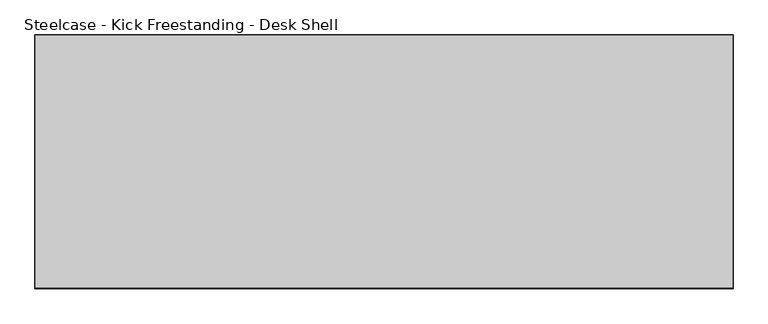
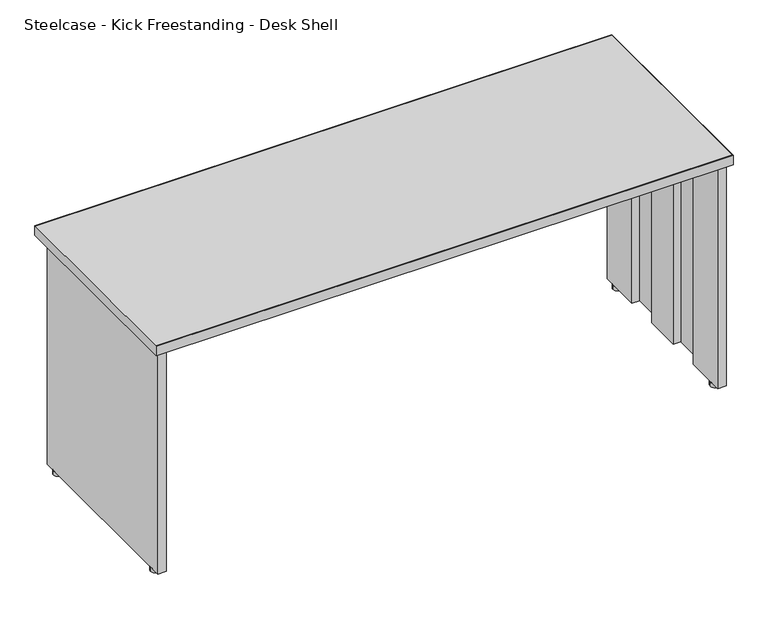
"""IFC4 building model written with IfcOpenShell, lengths in millimetres: furniture geometry, Steelcase - Kick Freestanding - Desk Shell : 24D x 66W."""

import ifcopenshell
import ifcopenshell.guid

model = None  # the IFC model being written
_history = None  # IfcOwnerHistory: only IFC2X3 demands one
_inside = {}  # id of a spatial element -> (the spatial element, [elements in it])
_under = {}  # id of a project, library or spatial element -> (it, [spatial elements below it])
_declared = {}  # id of a project -> (the project, [libraries it declares])
_typed = {}  # id of a type object -> (the type object, [elements of that type])
_made_of = {}  # id of a material, layer set ... -> (it, [elements and type objects made of it])


def new_model(schema):
    """Start an empty IFC model of exactly this schema.

    Asked for "IFC4X3", IfcOpenShell would pick the latest addendum, in which some entities
    have other attributes; the version numbers below select the first issue.
    IFC2X3 requires an IfcOwnerHistory on every rooted entity: one is made here for all.
    """
    global model, _history
    if schema == "IFC4X3":
        model = ifcopenshell.file(schema_version=(4, 3, 0, 0))
    else:
        model = ifcopenshell.file(schema=schema)
    _inside.clear()
    _under.clear()
    _declared.clear()
    _typed.clear()
    _made_of.clear()
    _history = None
    if model.schema == "IFC2X3":
        org = make("IfcOrganization", Name="unknown")
        user = make(
            "IfcPersonAndOrganization",
            ThePerson=make("IfcPerson", FamilyName="unknown"),
            TheOrganization=org,
        )
        app = make(
            "IfcApplication",
            ApplicationDeveloper=org,
            Version="unknown",
            ApplicationFullName="unknown",
            ApplicationIdentifier="unknown",
        )
        _history = make(
            "IfcOwnerHistory",
            OwningUser=user,
            OwningApplication=app,
            ChangeAction="ADDED",
            CreationDate=0,
        )
    return model


def make(cls, **values):
    """One entity of the class cls with the attributes given. An attribute that is None is left unset."""
    return model.create_entity(
        cls, **{name: value for name, value in values.items() if value is not None}
    )


def rooted(cls, **values):
    """An entity with a GlobalId (a new one), such as an element, a storey or a relation."""
    return make(cls, GlobalId=ifcopenshell.guid.new(), OwnerHistory=_history, **values)


def si_unit(unit_type, name, prefix=None):
    """IfcSIUnit, for example si_unit("LENGTHUNIT", "METRE", prefix="MILLI")."""
    return make("IfcSIUnit", UnitType=unit_type, Prefix=prefix, Name=name)


def assignment(units):
    """IfcUnitAssignment: the units of a project."""
    return None if units is None else make("IfcUnitAssignment", Units=units)


def point(xyz):
    """IfcCartesianPoint."""
    return None if xyz is None else make("IfcCartesianPoint", Coordinates=xyz)


def direction(xyz):
    """IfcDirection."""
    return None if xyz is None else make("IfcDirection", DirectionRatios=xyz)


def frame(location, z_axis=None, x_axis=None):
    """IfcAxis2Placement3D, a coordinate frame: its origin and axes. An axis left out is left unset."""
    return make(
        "IfcAxis2Placement3D",
        Location=point(location),
        Axis=direction(z_axis),
        RefDirection=direction(x_axis),
    )


def frame_2d(location, x_axis=None):
    """IfcAxis2Placement2D, a coordinate frame in the plane: its origin and x axis."""
    return make(
        "IfcAxis2Placement2D", Location=point(location), RefDirection=direction(x_axis)
    )


def origin():
    """The frame at (0, 0, 0) with its axes left unset."""
    return frame((0.0, 0.0, 0.0))


def origin_with_axes():
    """The frame at (0, 0, 0) with the z axis (0, 0, 1) and the x axis (1, 0, 0) written out."""
    return frame((0.0, 0.0, 0.0), z_axis=(0.0, 0.0, 1.0), x_axis=(1.0, 0.0, 0.0))


def place(relative_to, where):
    """IfcLocalPlacement: puts the frame where relative to a parent placement (None: the world)."""
    return make(
        "IfcLocalPlacement", PlacementRelTo=relative_to, RelativePlacement=where
    )


def context(
    kind, dimensions, precision=None, world=None, true_north=None, identifier=None
):
    """IfcGeometricRepresentationContext, for example the 3D "Model" context."""
    return make(
        "IfcGeometricRepresentationContext",
        ContextIdentifier=identifier,
        ContextType=kind,
        CoordinateSpaceDimension=dimensions,
        Precision=precision,
        WorldCoordinateSystem=world,
        TrueNorth=true_north,
    )


def project(units=None, contexts=None):
    """IfcProject with its units and contexts."""
    return rooted(
        "IfcProject",
        Name="project",
        RepresentationContexts=contexts,
        UnitsInContext=assignment(units),
    )


def spatial(cls, under=None, at=None, **own):
    """A site, building, storey or space (cls), placed at a placement, below another one or the project."""
    s = rooted(cls, ObjectPlacement=at, **own)
    if under is not None:
        _under.setdefault(under.id(), (under, []))[1].append(s)
    return s


def polyline(points):
    """IfcPolyline through the points."""
    return make("IfcPolyline", Points=[point(p) for p in points])


def circle_curve(where, radius):
    """IfcCircle in the frame where."""
    return make("IfcCircle", Position=where, Radius=radius)


def trimmed(basis, trim1, trim2, sense, master):
    """IfcTrimmedCurve: the piece of a basis curve between two trims."""
    return make(
        "IfcTrimmedCurve",
        BasisCurve=basis,
        Trim1=trim1,
        Trim2=trim2,
        SenseAgreement=sense,
        MasterRepresentation=master,
    )


def segment(curve, same_sense, transition):
    """IfcCompositeCurveSegment."""
    return make(
        "IfcCompositeCurveSegment",
        Transition=transition,
        SameSense=same_sense,
        ParentCurve=curve,
    )


def composite_curve(segments, self_intersect=None):
    """IfcCompositeCurve: segments joined end to end."""
    return make("IfcCompositeCurve", Segments=segments, SelfIntersect=self_intersect)


def outline(outer, holes=None, kind="AREA"):
    """IfcArbitraryClosedProfileDef: a profile drawn as a closed curve; with holes, ...WithVoids."""
    if holes is None:
        return make("IfcArbitraryClosedProfileDef", ProfileType=kind, OuterCurve=outer)
    return make(
        "IfcArbitraryProfileDefWithVoids",
        ProfileType=kind,
        OuterCurve=outer,
        InnerCurves=holes,
    )


def extrude(swept, where, along, depth):
    """IfcExtrudedAreaSolid: the profile swept, set in the frame where, extruded along a direction by depth."""
    return make(
        "IfcExtrudedAreaSolid",
        SweptArea=swept,
        Position=where,
        ExtrudedDirection=direction(along),
        Depth=depth,
    )


def shape(context_of_items, identifier, shape_type, items):
    """IfcShapeRepresentation: the items that make up one representation, for example the "Body"."""
    return make(
        "IfcShapeRepresentation",
        ContextOfItems=context_of_items,
        RepresentationIdentifier=identifier,
        RepresentationType=shape_type,
        Items=items,
    )


def source(mapping_origin, context_of_items, identifier, shape_type, items):
    """IfcRepresentationMap: a shape defined once, which mapped items show again and again."""
    return make(
        "IfcRepresentationMap",
        MappingOrigin=mapping_origin,
        MappedRepresentation=shape(context_of_items, identifier, shape_type, items),
    )


def transform(
    local_origin,
    x_axis=None,
    y_axis=None,
    z_axis=None,
    scale=None,
    scale2=None,
    scale3=None,
    uniform=True,
):
    """IfcCartesianTransformationOperator3D, or its non-uniform kind. x_axis, y_axis, z_axis: its Axis1, 2, 3."""
    if uniform:
        return make(
            "IfcCartesianTransformationOperator3D",
            Axis1=direction(x_axis),
            Axis2=direction(y_axis),
            LocalOrigin=point(local_origin),
            Scale=scale,
            Axis3=direction(z_axis),
        )
    return make(
        "IfcCartesianTransformationOperator3DnonUniform",
        Axis1=direction(x_axis),
        Axis2=direction(y_axis),
        LocalOrigin=point(local_origin),
        Scale=scale,
        Axis3=direction(z_axis),
        Scale2=scale2,
        Scale3=scale3,
    )


def mapped(mapping_source, mapping_target):
    """IfcMappedItem: shows the shape of a source again, moved by a transform."""
    return make(
        "IfcMappedItem", MappingSource=mapping_source, MappingTarget=mapping_target
    )


def made_of(thing, what):
    """Note that an element or type object is made of a material, layer set ...; save() writes the relation."""
    if what is not None:
        _made_of.setdefault(what.id(), (what, []))[1].append(thing)
    return thing


def element(
    cls,
    number,
    at=None,
    inside=None,
    cuts=None,
    type_object=None,
    material=None,
    context=None,
    identifier="Body",
    shape_type=None,
    held_by="IfcProductDefinitionShape",
    body=None,
    shapes=None,
    **own,
):
    """One element of the class cls, such as IfcWall. Its Tag is "e" and its number.

    at: its placement. inside: the storey or other place that contains it. cuts: it is an
    opening in that element (IfcRelVoidsElement). A single representation is given by context,
    identifier, shape_type and body (its items); several are given by shapes. held_by: the class
    of the entity that holds the representations. save() writes the other relations.
    """
    e = rooted(cls, Tag="e%d" % number, ObjectPlacement=at, **own)
    if body is not None:
        shapes = [shape(context, identifier, shape_type, body)]
    if shapes is not None:
        e.Representation = make(held_by, Representations=shapes)
    if inside is not None:
        _inside.setdefault(inside.id(), (inside, []))[1].append(e)
    if cuts is not None:
        rooted(
            "IfcRelVoidsElement", RelatingBuildingElement=cuts, RelatedOpeningElement=e
        )
    if type_object is not None:
        _typed.setdefault(type_object.id(), (type_object, []))[1].append(e)
    return made_of(e, material)


def aggregate(whole, parts):
    """IfcRelAggregates: a whole, such as a stair, and the parts it consists of."""
    return rooted("IfcRelAggregates", RelatingObject=whole, RelatedObjects=parts)


def save(model, path):
    """Write the relations noted so far, then the file.

    IfcRelAggregates (storeys below a building ...), IfcRelContainedInSpatialStructure (elements
    in a storey), IfcRelDefinesByType, IfcRelAssociatesMaterial and IfcRelDeclares: one each for
    every whole, place, type object, material and project.
    """
    for whole, parts in _under.values():
        aggregate(whole, parts)
    for where, things in _inside.values():
        rooted(
            "IfcRelContainedInSpatialStructure",
            RelatedElements=things,
            RelatingStructure=where,
        )
    for kind, things in _typed.values():
        rooted("IfcRelDefinesByType", RelatedObjects=things, RelatingType=kind)
    for what, things in _made_of.values():
        rooted("IfcRelAssociatesMaterial", RelatedObjects=things, RelatingMaterial=what)
    for by, libraries in _declared.values():
        rooted("IfcRelDeclares", RelatingContext=by, RelatedDefinitions=libraries)
    model.write(path)


def steelcase_kick_freestanding_desk_shell_596fe0f1(model_context):
    return source(origin(), model_context, "Body", "SweptSolid", [
        extrude(outline(composite_curve([segment(trimmed(circle_curve(frame_2d((665.1357759, -1004.2087877)), 13.97), [point((651.1657759, -1004.2087877))], [point((679.1057759, -1004.2087877))], False, "CARTESIAN"), True, "CONTINUOUS"), segment(trimmed(circle_curve(frame_2d((665.1357759, -1004.2087877)), 13.97), [point((679.1057759, -1004.2087877))], [point((651.1657759, -1004.2087877))], False, "CARTESIAN"), True, "CONTINUOUS")], self_intersect=False)), origin_with_axes(), (0.0, 0.0, 1.0), 12.446),
        extrude(outline(composite_curve([segment(trimmed(circle_curve(frame_2d((665.1357759, -1493.6441481)), 13.97), [point((651.1657759, -1493.6441481))], [point((679.1057759, -1493.6441481))], False, "CARTESIAN"), True, "CONTINUOUS"), segment(trimmed(circle_curve(frame_2d((665.1357759, -1493.6441481)), 13.97), [point((679.1057759, -1493.6441481))], [point((651.1657759, -1493.6441481))], False, "CARTESIAN"), True, "CONTINUOUS")], self_intersect=False)), origin_with_axes(), (0.0, 0.0, 1.0), 12.446),
        extrude(outline(polyline([(2279.0738425, -1096.0529604), (2279.0738425, -972.7867604), (2303.5594421, -972.7867604), (2303.5594421, -1528.538741), (2279.0738421, -1528.538741), (2279.0738421, -1404.2311348), (2301.5020425, -1404.2311348), (2301.5020425, -1304.5107682), (2279.0738421, -1304.5107682), (2279.0738421, -1195.7733647), (2301.5020425, -1195.7733647), (2301.5020425, -1096.0529604), (2279.0738425, -1096.0529604)])), frame((0.0, 0.0, 12.446), z_axis=(0.0, 0.0, 1.0), x_axis=(1.0, 0.0, 0.0)), (0.0, 0.0, 1.0), 682.498),
        extrude(outline(polyline([(677.0450425, -1096.0529604), (654.6168425, -1096.0529604), (654.6168425, -1195.7733647), (677.0450429, -1195.7733647), (677.0450429, -1304.5107682), (654.6168425, -1304.5107682), (654.6168425, -1404.2311348), (677.0450429, -1404.2311348), (677.0450429, -1528.538741), (652.5594429, -1528.538741), (652.5594429, -972.7867604), (677.0450425, -972.7867604), (677.0450425, -1096.0529604)])), frame((0.0, 0.0, 12.446), z_axis=(0.0, 0.0, 1.0), x_axis=(1.0, 0.0, 0.0)), (0.0, 0.0, 1.0), 682.498),
        extrude(outline(polyline([(2315.2688425, -932.6293604), (2315.2688425, -1538.2669215), (640.8500425, -1538.2669215), (640.8500425, -932.6293604), (2315.2688425, -932.6293604)])), frame((0.0, 0.0, 694.944), z_axis=(0.0, 0.0, 1.0), x_axis=(1.0, 0.0, 0.0)), (0.0, 0.0, 1.0), 28.956),
        extrude(outline(polyline([(2316.2594425, -931.6387604), (2316.2594425, -1541.2387604), (639.8594425, -1541.2387604), (639.8594425, -931.6387604), (2316.2594425, -931.6387604)]), holes=[polyline([(2315.2688425, -932.6293604), (640.8500425, -932.6293604), (640.8500425, -1538.2669215), (2315.2688425, -1538.2669215), (2315.2688425, -932.6293604)])]), frame((0.0, 0.0, 694.944), z_axis=(0.0, 0.0, 1.0), x_axis=(1.0, 0.0, 0.0)), (0.0, 0.0, 1.0), 28.956),
        extrude(outline(composite_curve([segment(trimmed(circle_curve(frame_2d((2290.9831091, -1493.6441481)), 13.97), [point((2277.0131091, -1493.6441481))], [point((2304.9531091, -1493.6441481))], False, "CARTESIAN"), True, "CONTINUOUS"), segment(trimmed(circle_curve(frame_2d((2290.9831091, -1493.6441481)), 13.97), [point((2304.9531091, -1493.6441481))], [point((2277.0131091, -1493.6441481))], False, "CARTESIAN"), True, "CONTINUOUS")], self_intersect=False)), origin_with_axes(), (0.0, 0.0, 1.0), 12.446),
        extrude(outline(composite_curve([segment(trimmed(circle_curve(frame_2d((2290.9831091, -1004.2087877)), 13.97), [point((2304.9531091, -1004.2087877))], [point((2277.0131091, -1004.2087877))], False, "CARTESIAN"), True, "CONTINUOUS"), segment(trimmed(circle_curve(frame_2d((2290.9831091, -1004.2087877)), 13.97), [point((2277.0131091, -1004.2087877))], [point((2304.9531091, -1004.2087877))], False, "CARTESIAN"), True, "CONTINUOUS")], self_intersect=False)), origin_with_axes(), (0.0, 0.0, 1.0), 12.446),
    ])


if __name__ == "__main__":
    model = new_model("IFC4")
    model_context = context("Model", 3, world=origin())
    ifc_project = project(units=[si_unit("LENGTHUNIT", "METRE", prefix="MILLI")], contexts=[model_context])
    site = spatial("IfcSite", under=ifc_project)
    building = spatial("IfcBuilding", under=site)
    placement = place(None, origin())
    steelcase_kick_freestanding_desk_shell_shape = steelcase_kick_freestanding_desk_shell_596fe0f1(model_context)
    element("IfcFurniture", 1, ObjectType="Steelcase - Kick Freestanding - Desk Shell : 24D x 66W", at=placement, inside=building, context=model_context, shape_type="MappedRepresentation", body=[
        mapped(steelcase_kick_freestanding_desk_shell_shape, transform((0.0, 0.0, 0.0), x_axis=(1.0, 0.0, 0.0), y_axis=(0.0, 1.0, 0.0), z_axis=(0.0, 0.0, 1.0))),
    ])
    save(model, "model.ifc")
